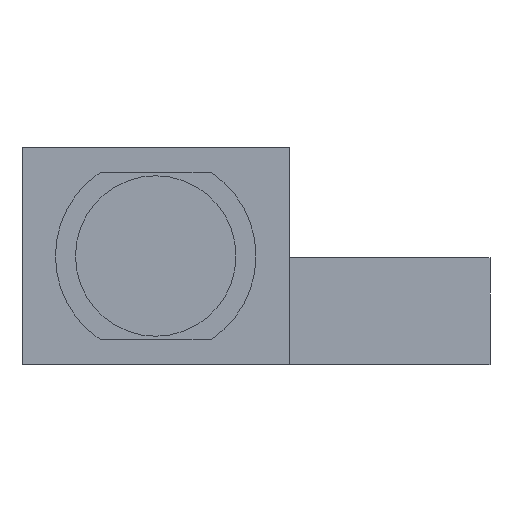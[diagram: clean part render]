
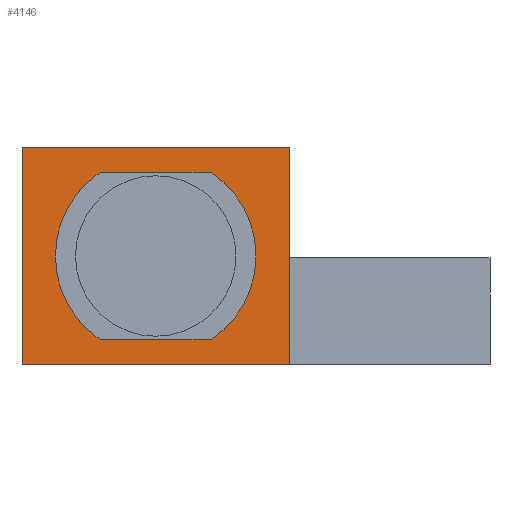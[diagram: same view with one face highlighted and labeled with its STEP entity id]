
A CAD part, left-side view. The second image highlights one B-rep face of the part: STEP entity #4146.
In plain terms, the highlighted planar face has unit normal (-1, 0, 0).
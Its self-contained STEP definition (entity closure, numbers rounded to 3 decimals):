
#97 = AXIS2_PLACEMENT_3D ( 'NONE', #165, #3460, #2791 ) ;
#165 = CARTESIAN_POINT ( 'NONE',  ( -12.5, 0., 3.25 ) ) ;
#225 = VERTEX_POINT ( 'NONE', #5713 ) ;
#339 = LINE ( 'NONE', #1682, #4513 ) ;
#422 = DIRECTION ( 'NONE',  ( 0., -1., 0. ) ) ;
#534 = EDGE_CURVE ( 'NONE', #3699, #5969, #2561, .T. ) ;
#1142 = CARTESIAN_POINT ( 'NONE',  ( -12.5, 1.658, 5.75 ) ) ;
#1288 = DIRECTION ( 'NONE',  ( 1., 0., 0. ) ) ;
#1569 = CARTESIAN_POINT ( 'NONE',  ( -12.5, -4., 0. ) ) ;
#1682 = CARTESIAN_POINT ( 'NONE',  ( -12.5, -4., 0. ) ) ;
#1992 = DIRECTION ( 'NONE',  ( 0., 1., 0. ) ) ;
#1998 = EDGE_LOOP ( 'NONE', ( #4108, #2501, #4411, #5716 ) ) ;
#2117 = DIRECTION ( 'NONE',  ( 0., 0., 1. ) ) ;
#2140 = CARTESIAN_POINT ( 'NONE',  ( -12.5, 0., 5.75 ) ) ;
#2261 = CARTESIAN_POINT ( 'NONE',  ( -12.5, 1.658, 0.75 ) ) ;
#2501 = ORIENTED_EDGE ( 'NONE', *, *, #534, .T. ) ;
#2561 = CIRCLE ( 'NONE', #97, 3. ) ;
#2644 = EDGE_CURVE ( 'NONE', #4477, #225, #4765, .T. ) ;
#2791 = DIRECTION ( 'NONE',  ( 0., 0., -1. ) ) ;
#2824 = ORIENTED_EDGE ( 'NONE', *, *, #2644, .T. ) ;
#2838 = DIRECTION ( 'NONE',  ( 0., 0., -1. ) ) ;
#2841 = LINE ( 'NONE', #4203, #5198 ) ;
#2903 = EDGE_LOOP ( 'NONE', ( #6067, #7939, #2824, #8447 ) ) ;
#2927 = DIRECTION ( 'NONE',  ( 0., 1., 0. ) ) ;
#2938 = CARTESIAN_POINT ( 'NONE',  ( -12.5, -1.658, 0.75 ) ) ;
#3056 = VERTEX_POINT ( 'NONE', #1569 ) ;
#3193 = AXIS2_PLACEMENT_3D ( 'NONE', #3244, #1288, #3293 ) ;
#3244 = CARTESIAN_POINT ( 'NONE',  ( -12.5, 0., 0. ) ) ;
#3293 = DIRECTION ( 'NONE',  ( 0., 0., -1. ) ) ;
#3303 = EDGE_CURVE ( 'NONE', #225, #3056, #339, .T. ) ;
#3421 = CARTESIAN_POINT ( 'NONE',  ( -12.5, 0., 3.25 ) ) ;
#3455 = EDGE_CURVE ( 'NONE', #7512, #5568, #4385, .T. ) ;
#3460 = DIRECTION ( 'NONE',  ( 1., 0., 0. ) ) ;
#3534 = CARTESIAN_POINT ( 'NONE',  ( -12.5, 4., 0. ) ) ;
#3644 = PLANE ( 'NONE',  #3193 ) ;
#3699 = VERTEX_POINT ( 'NONE', #5820 ) ;
#4108 = ORIENTED_EDGE ( 'NONE', *, *, #5720, .T. ) ;
#4146 = ADVANCED_FACE ( 'NONE', ( #4941, #6922 ), #3644, .F. ) ;
#4173 = EDGE_CURVE ( 'NONE', #6095, #4477, #7728, .T. ) ;
#4187 = CARTESIAN_POINT ( 'NONE',  ( -12.5, 4., 6.5 ) ) ;
#4193 = DIRECTION ( 'NONE',  ( 1., 0., 0. ) ) ;
#4203 = CARTESIAN_POINT ( 'NONE',  ( -12.5, -4., 6.5 ) ) ;
#4385 = CIRCLE ( 'NONE', #5755, 3. ) ;
#4411 = ORIENTED_EDGE ( 'NONE', *, *, #7893, .T. ) ;
#4477 = VERTEX_POINT ( 'NONE', #4187 ) ;
#4513 = VECTOR ( 'NONE', #422, 1000. ) ;
#4587 = VECTOR ( 'NONE', #1992, 1000. ) ;
#4765 = LINE ( 'NONE', #3534, #8016 ) ;
#4834 = LINE ( 'NONE', #2140, #7933 ) ;
#4895 = LINE ( 'NONE', #5570, #6248 ) ;
#4941 = FACE_BOUND ( 'NONE', #1998, .T. ) ;
#5198 = VECTOR ( 'NONE', #2117, 1000. ) ;
#5365 = EDGE_CURVE ( 'NONE', #3056, #6095, #2841, .T. ) ;
#5568 = VERTEX_POINT ( 'NONE', #1142 ) ;
#5570 = CARTESIAN_POINT ( 'NONE',  ( -12.5, 0., 0.75 ) ) ;
#5713 = CARTESIAN_POINT ( 'NONE',  ( -12.5, 4., 0. ) ) ;
#5716 = ORIENTED_EDGE ( 'NONE', *, *, #3455, .T. ) ;
#5720 = EDGE_CURVE ( 'NONE', #5568, #3699, #4834, .T. ) ;
#5755 = AXIS2_PLACEMENT_3D ( 'NONE', #3421, #4193, #2838 ) ;
#5820 = CARTESIAN_POINT ( 'NONE',  ( -12.5, -1.658, 5.75 ) ) ;
#5969 = VERTEX_POINT ( 'NONE', #2938 ) ;
#6067 = ORIENTED_EDGE ( 'NONE', *, *, #5365, .T. ) ;
#6095 = VERTEX_POINT ( 'NONE', #7097 ) ;
#6248 = VECTOR ( 'NONE', #2927, 1000. ) ;
#6621 = CARTESIAN_POINT ( 'NONE',  ( -12.5, 4., 6.5 ) ) ;
#6861 = DIRECTION ( 'NONE',  ( 0., -1., 0. ) ) ;
#6922 = FACE_OUTER_BOUND ( 'NONE', #2903, .T. ) ;
#6951 = DIRECTION ( 'NONE',  ( 0., 0., -1. ) ) ;
#7097 = CARTESIAN_POINT ( 'NONE',  ( -12.5, -4., 6.5 ) ) ;
#7512 = VERTEX_POINT ( 'NONE', #2261 ) ;
#7728 = LINE ( 'NONE', #6621, #4587 ) ;
#7893 = EDGE_CURVE ( 'NONE', #5969, #7512, #4895, .T. ) ;
#7933 = VECTOR ( 'NONE', #6861, 1000. ) ;
#7939 = ORIENTED_EDGE ( 'NONE', *, *, #4173, .T. ) ;
#8016 = VECTOR ( 'NONE', #6951, 1000. ) ;
#8447 = ORIENTED_EDGE ( 'NONE', *, *, #3303, .T. ) ;
